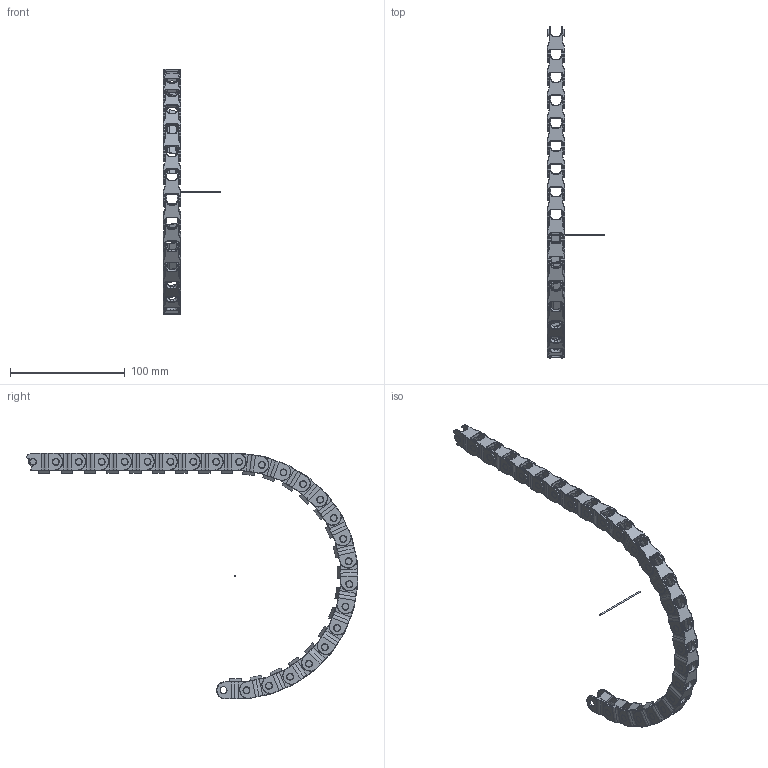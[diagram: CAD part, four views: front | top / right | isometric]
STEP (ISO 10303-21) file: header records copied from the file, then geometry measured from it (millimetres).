
FILE_DESCRIPTION((''),'2;1');
FILE_NAME('C:\Uebbing\PARAMETERKETTEN\KOLIBRI\Kol_15_015_4\KOLIBRI 15_015_4_PARAMETRISCH.stp','2011-11-02T10:59:36',('Uebbing'),(''),'Autodesk Inventor 10','Autodesk Inventor 10','');
FILE_SCHEMA(('AUTOMOTIVE_DESIGN { 1 0 10303 214 1 1 1 1 }'));
Length unit declared in the file: millimetre
Products named in the file (3): KOLIBRI 15_015_4_PARAMETRISCH; Kol_15_015_4; Achse
Assembly tree (26 placements, depth 2):
  KOLIBRI 15_015_4_PARAMETRISCH
    Kol_15_015_4  x25
    Achse
Bounding box: 50 x 289.61 x 214.43 mm (x, y, z)
Volume: 45857.9 mm3; surface area: 57466.9 mm2
Topology: 26 solids, 26 shells, 3003 faces, 7354 edges, 4453 vertices
Faces by surface type: bspline 3000, plane 2, cylinder 1
Full cylindrical faces by diameter (mm): 1 x1
Entity records: 5860 total; most frequent: CARTESIAN_POINT 3176, ORIENTED_EDGE 574, DIRECTION 460, EDGE_CURVE 287, VERTEX_POINT 177, AXIS2_PLACEMENT_3D 166, EDGE_LOOP 136, CIRCLE 130
